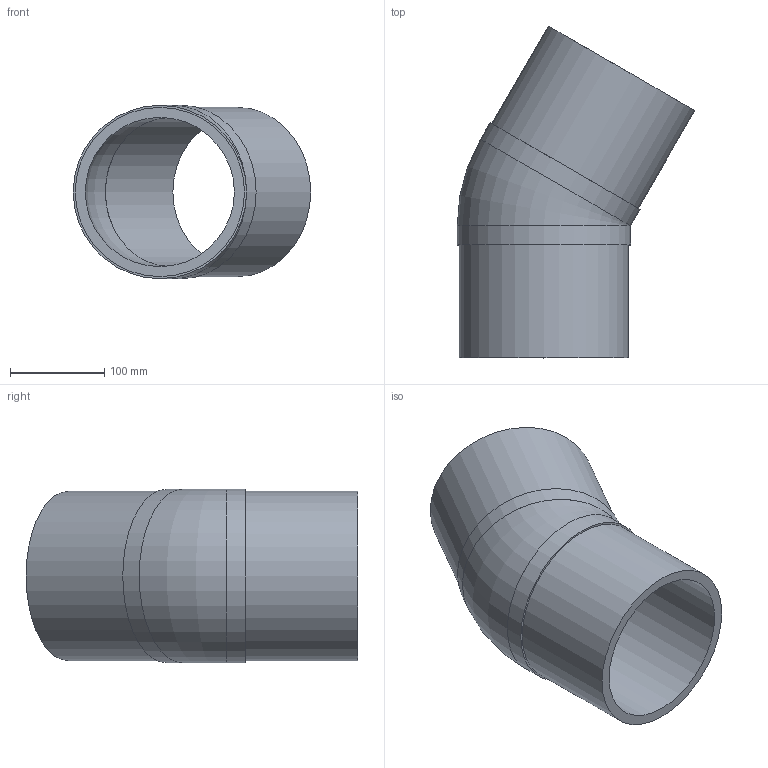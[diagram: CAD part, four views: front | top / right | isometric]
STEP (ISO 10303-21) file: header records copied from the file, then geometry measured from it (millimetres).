
FILE_DESCRIPTION(('Beschreibung'),'1');
FILE_NAME('V:/Ziel/25.14.01.063_SDR17_PE100_180.STP', '2014-09-15T05:58:36',('Author'), ('Organization'), 'KCM Version 1.1.794.0', 'Kubotek KeyCreator', 'Authorization');
FILE_SCHEMA(('CONFIG_CONTROL_DESIGN'));
Length unit declared in the file: millimetre
Bounding box: 252.58 x 352.89 x 184.28 mm (x, y, z)
Volume: 1977168.7 mm3; surface area: 365043.1 mm2
Topology: 1 solids, 1 shells, 17 faces, 60 edges, 67 vertices
Faces by surface type: plane 6, cylinder 5, cone 3, torus 2, bspline 1
Full cylindrical faces by diameter (mm): 158.4 x1, 158.6 x2, 180 x2
Entity records: 676 total; most frequent: CARTESIAN_POINT 116, DIRECTION 108, ORIENTED_EDGE 78, AXIS2_PLACEMENT_3D 40, EDGE_CURVE 39, VERTEX_POINT 28, VECTOR 28, LINE 28
